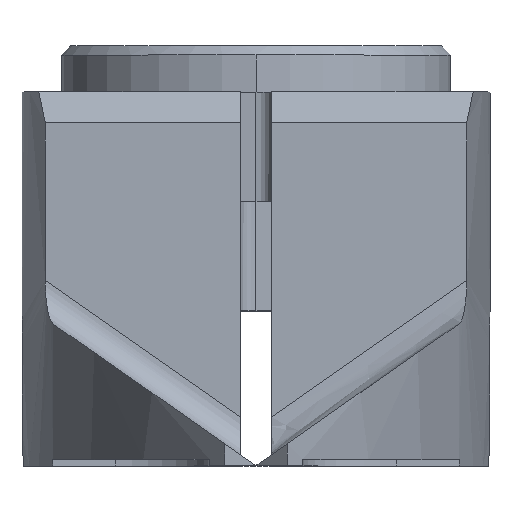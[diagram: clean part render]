
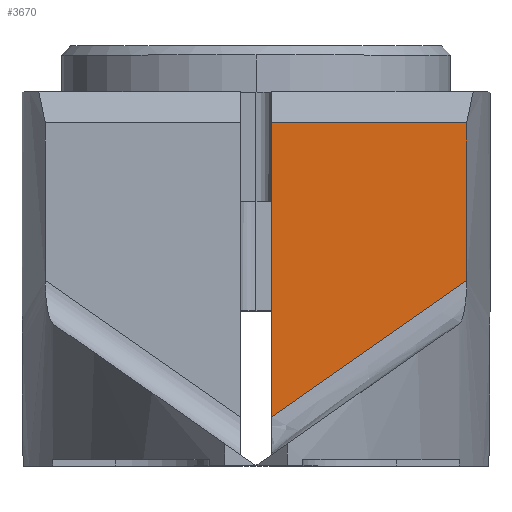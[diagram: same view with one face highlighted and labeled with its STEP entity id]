
A CAD part, top view. The second image highlights one B-rep face of the part: STEP entity #3670.
In plain terms, the highlighted planar face has unit normal (0, 0, 1) as drawn and (0.091, 0, 0.996) by its records, which use the part's own axes.
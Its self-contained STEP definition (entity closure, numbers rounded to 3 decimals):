
#6 = EDGE_CURVE ( 'NONE', #2346, #574, #3954, .T. ) ;
#184 = DIRECTION ( 'NONE',  ( 0.996, 0., -0.091 ) ) ;
#257 = EDGE_LOOP ( 'NONE', ( #3236, #3309, #1779, #4209 ) ) ;
#574 = VERTEX_POINT ( 'NONE', #4595 ) ;
#716 = FACE_OUTER_BOUND ( 'NONE', #257, .T. ) ;
#828 = LINE ( 'NONE', #2623, #4071 ) ;
#975 = CARTESIAN_POINT ( 'NONE',  ( 2.136, -12.629, 41.88 ) ) ;
#1013 = PLANE ( 'NONE',  #3439 ) ;
#1149 = EDGE_CURVE ( 'NONE', #1445, #574, #2909, .T. ) ;
#1203 = CARTESIAN_POINT ( 'NONE',  ( 8.364, -8.2, 41.311 ) ) ;
#1445 = VERTEX_POINT ( 'NONE', #2991 ) ;
#1779 = ORIENTED_EDGE ( 'NONE', *, *, #6, .F. ) ;
#1884 = CARTESIAN_POINT ( 'NONE',  ( 2.136, -3.2, 41.88 ) ) ;
#2022 = LINE ( 'NONE', #3413, #4860 ) ;
#2219 = DIRECTION ( 'NONE',  ( 0., 1., 0. ) ) ;
#2346 = VERTEX_POINT ( 'NONE', #2775 ) ;
#2623 = CARTESIAN_POINT ( 'NONE',  ( 2.136, -8.2, 41.88 ) ) ;
#2711 = DIRECTION ( 'NONE',  ( 0.091, 0., 0.996 ) ) ;
#2775 = CARTESIAN_POINT ( 'NONE',  ( 8.364, -3.2, 41.311 ) ) ;
#2811 = VECTOR ( 'NONE', #5010, 1000. ) ;
#2909 = LINE ( 'NONE', #975, #5453 ) ;
#2991 = CARTESIAN_POINT ( 'NONE',  ( 2.136, -12.629, 41.88 ) ) ;
#3085 = VERTEX_POINT ( 'NONE', #1884 ) ;
#3236 = ORIENTED_EDGE ( 'NONE', *, *, #5041, .F. ) ;
#3309 = ORIENTED_EDGE ( 'NONE', *, *, #1149, .T. ) ;
#3413 = CARTESIAN_POINT ( 'NONE',  ( 5.374, -3.2, 41.584 ) ) ;
#3439 = AXIS2_PLACEMENT_3D ( 'NONE', #4410, #2711, #184 ) ;
#3670 = ADVANCED_FACE ( 'NONE', ( #716 ), #1013, .T. ) ;
#3954 = LINE ( 'NONE', #1203, #2811 ) ;
#4071 = VECTOR ( 'NONE', #2219, 1000. ) ;
#4190 = DIRECTION ( 'NONE',  ( 0.816, 0.574, -0.075 ) ) ;
#4209 = ORIENTED_EDGE ( 'NONE', *, *, #5418, .F. ) ;
#4262 = DIRECTION ( 'NONE',  ( 0.996, 0., -0.091 ) ) ;
#4410 = CARTESIAN_POINT ( 'NONE',  ( 2.136, -12.686, 41.88 ) ) ;
#4595 = CARTESIAN_POINT ( 'NONE',  ( 8.364, -8.25, 41.311 ) ) ;
#4860 = VECTOR ( 'NONE', #4262, 1000. ) ;
#5010 = DIRECTION ( 'NONE',  ( 0., -1., 0. ) ) ;
#5041 = EDGE_CURVE ( 'NONE', #1445, #3085, #828, .T. ) ;
#5418 = EDGE_CURVE ( 'NONE', #3085, #2346, #2022, .T. ) ;
#5453 = VECTOR ( 'NONE', #4190, 1000. ) ;
